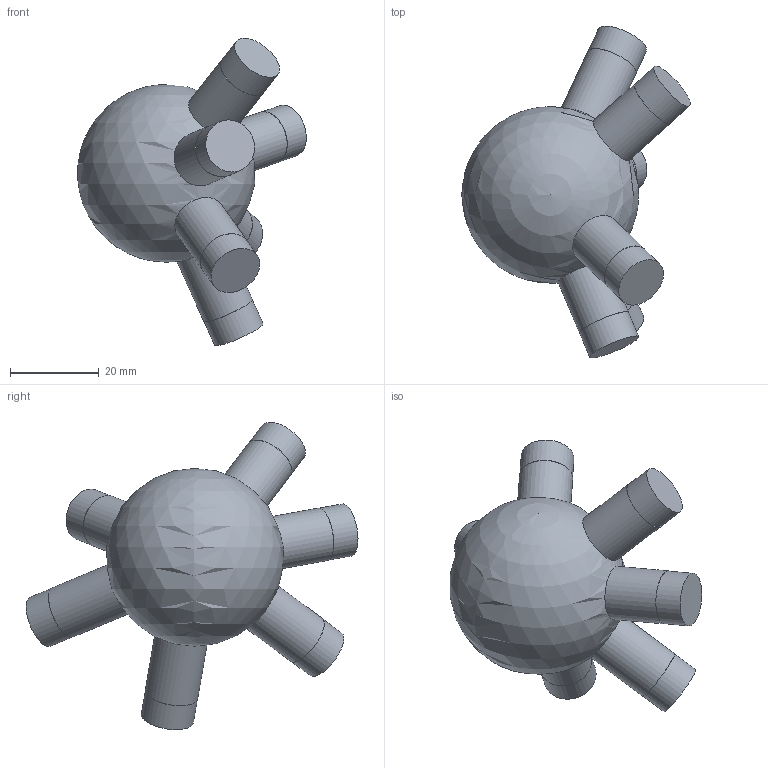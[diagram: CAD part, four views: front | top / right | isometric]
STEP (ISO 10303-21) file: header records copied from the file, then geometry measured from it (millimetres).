
FILE_DESCRIPTION(('Open CASCADE Model'),'2;1');
FILE_NAME('Open CASCADE Shape Model','2026-10-21T12:47:57',('Author'),( 'Open CASCADE'),'Open CASCADE STEP processor 7.9','Open CASCADE 7.9' ,'Unknown');
FILE_SCHEMA(('AUTOMOTIVE_DESIGN { 1 0 10303 214 1 1 1 1 }'));
Length unit declared in the file: millimetre
Products named in the file (1): Open CASCADE STEP translator 7.9 92
Bounding box: 51.45 x 74.71 x 69.17 mm (x, y, z)
Volume: 46785.8 mm3; surface area: 9551.9 mm2
Topology: 1 solids, 1 shells, 25 faces, 41 edges, 28 vertices
Faces by surface type: cylinder 12, plane 12, sphere 1
Full cylindrical faces by diameter (mm): 11.9 x6, 12 x6
Entity records: 1508 total; most frequent: CARTESIAN_POINT 574, DIRECTION 192, ORIENTED_EDGE 80, PCURVE 80, DEFINITIONAL_REPRESENTATION 80, LINE 66, VECTOR 66, AXIS2_PLACEMENT_3D 54
